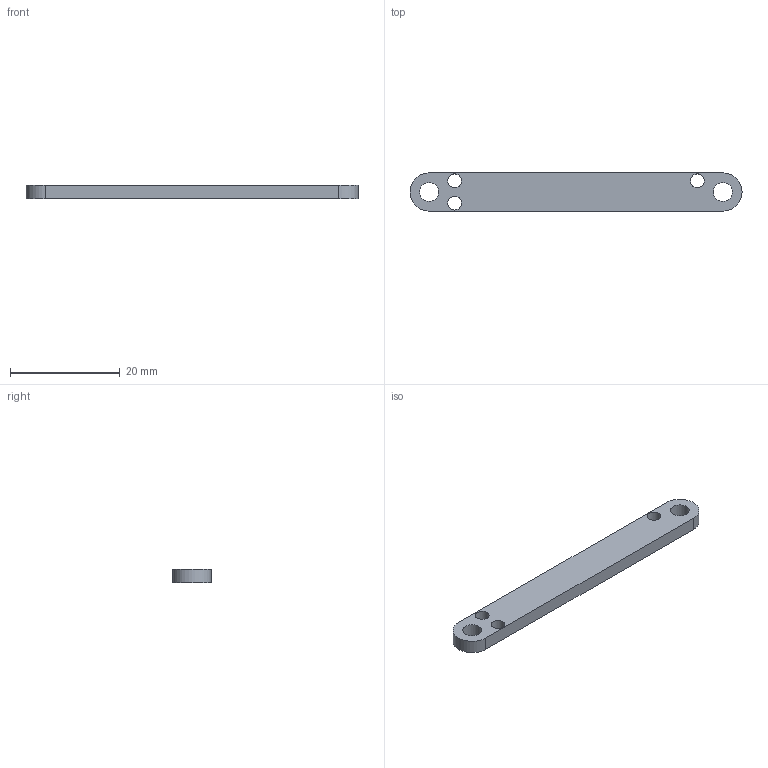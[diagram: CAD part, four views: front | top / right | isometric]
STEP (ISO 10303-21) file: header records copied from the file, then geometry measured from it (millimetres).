
FILE_DESCRIPTION (( 'STEP AP203' ), '1' );
FILE_NAME ('Potentiometer Bracket.step', '2015-03-14T23:35:55', ( '' ), ( '' ), 'SwSTEP 2.0', 'SolidWorks 2013', '' );
FILE_SCHEMA (( 'CONFIG_CONTROL_DESIGN' ));
Length unit declared in the file: inch
Products named in the file (1): Potentiometer Bracket
Bounding box: 60.58 x 6.99 x 2.54 mm (x, y, z)
Volume: 962 mm3; surface area: 1201.4 mm2
Topology: 1 solids, 1 shells, 11 faces, 27 edges, 18 vertices
Faces by surface type: cylinder 7, plane 4
Full cylindrical faces by diameter (mm): 2.54 x3, 3.454 x2
Entity records: 409 total; most frequent: DIRECTION 60, CARTESIAN_POINT 52, ORIENTED_EDGE 44, EDGE_LOOP 26, AXIS2_PLACEMENT_3D 26, EDGE_CURVE 22, VERTEX_POINT 18, FACE_OUTER_BOUND 16
